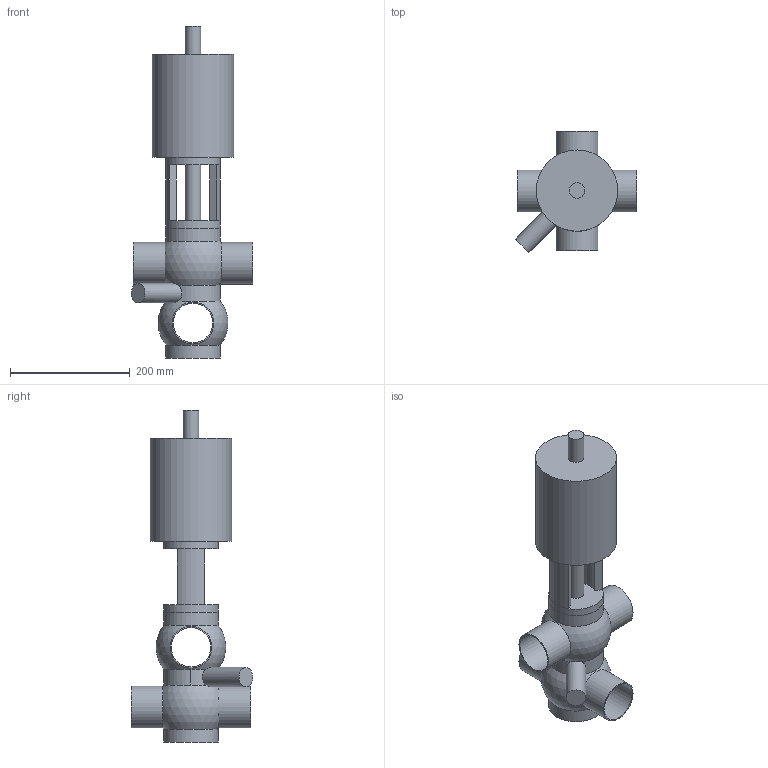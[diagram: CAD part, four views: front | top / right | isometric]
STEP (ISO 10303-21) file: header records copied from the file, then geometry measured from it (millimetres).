
FILE_DESCRIPTION(('FreeCAD Model'),'2;1');
FILE_NAME( '/home/martin/Documents/proyect/valves/stp/valve_TT_DN-65.step', '2018-01-12T21:41:49',('Author'),(''), 'Open CASCADE STEP processor 6.8','FreeCAD','Unknown');
FILE_SCHEMA(('AUTOMOTIVE_DESIGN_CC2 { 1 2 10303 214 -1 1 5 4 }'));
Length unit declared in the file: millimetre
Products named in the file (3): ASSEMBLY; valve_TT_DN-65-body; valve_TT_DN-65-head
Assembly tree (2 placements, depth 2):
  ASSEMBLY
    valve_TT_DN-65-body
    valve_TT_DN-65-head
Bounding box: 203.41 x 203.41 x 555.5 mm (x, y, z)
Volume: 3661715.7 mm3; surface area: 373628.3 mm2
Topology: 2 solids, 2 shells, 46 faces, 109 edges, 70 vertices
Faces by surface type: cylinder 24, plane 18, sphere 4
Full cylindrical faces by diameter (mm): 26 x2, 32.5 x1, 66 x5, 70 x4, 91 x4, 136 x1
Entity records: 5359 total; most frequent: CARTESIAN_POINT 2940, DIRECTION 417, ORIENTED_EDGE 214, PCURVE 214, DEFINITIONAL_REPRESENTATION 214, LINE 172, VECTOR 172, AXIS2_PLACEMENT_3D 107
